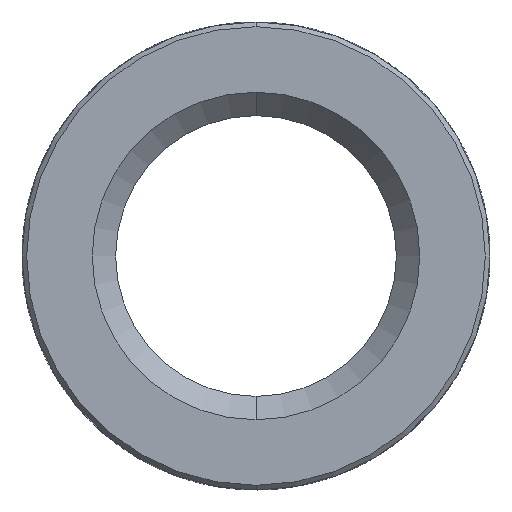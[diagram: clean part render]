
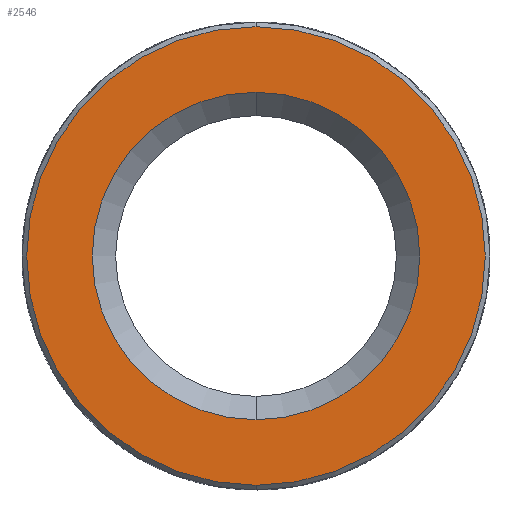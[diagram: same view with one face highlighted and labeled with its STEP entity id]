
A CAD part, front view. The second image highlights one B-rep face of the part: STEP entity #2546.
In plain terms, the highlighted planar face has unit normal (0, -1, 0).
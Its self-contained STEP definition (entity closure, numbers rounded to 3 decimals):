
#9 = CARTESIAN_POINT ( 'NONE',  ( 0., -7.6, -3.5 ) ) ;
#30 = DIRECTION ( 'NONE',  ( 0., -1., 0. ) ) ;
#61 = DIRECTION ( 'NONE',  ( 0., -1., 0. ) ) ;
#220 = FACE_OUTER_BOUND ( 'NONE', #3449, .T. ) ;
#271 = CARTESIAN_POINT ( 'NONE',  ( 0., -7.6, 4.9 ) ) ;
#312 = CIRCLE ( 'NONE', #1649, 3.5 ) ;
#318 = FACE_BOUND ( 'NONE', #1198, .T. ) ;
#329 = DIRECTION ( 'NONE',  ( 0., 0., -1. ) ) ;
#400 = CARTESIAN_POINT ( 'NONE',  ( 0., -7.6, 5. ) ) ;
#530 = VERTEX_POINT ( 'NONE', #271 ) ;
#612 = DIRECTION ( 'NONE',  ( 0., 1., 0. ) ) ;
#714 = CARTESIAN_POINT ( 'NONE',  ( 0., -7.6, 0. ) ) ;
#743 = AXIS2_PLACEMENT_3D ( 'NONE', #3538, #61, #1514 ) ;
#779 = CIRCLE ( 'NONE', #743, 4.9 ) ;
#811 = ORIENTED_EDGE ( 'NONE', *, *, #2907, .T. ) ;
#865 = AXIS2_PLACEMENT_3D ( 'NONE', #714, #1305, #1000 ) ;
#892 = VERTEX_POINT ( 'NONE', #2465 ) ;
#1000 = DIRECTION ( 'NONE',  ( 0., 0., -1. ) ) ;
#1001 = CIRCLE ( 'NONE', #3694, 4.9 ) ;
#1005 = AXIS2_PLACEMENT_3D ( 'NONE', #400, #3268, #1555 ) ;
#1198 = EDGE_LOOP ( 'NONE', ( #811, #1727 ) ) ;
#1229 = DIRECTION ( 'NONE',  ( 0., 0., -1. ) ) ;
#1305 = DIRECTION ( 'NONE',  ( 0., 1., 0. ) ) ;
#1326 = VERTEX_POINT ( 'NONE', #9 ) ;
#1352 = VERTEX_POINT ( 'NONE', #1491 ) ;
#1491 = CARTESIAN_POINT ( 'NONE',  ( 0., -7.6, -4.9 ) ) ;
#1514 = DIRECTION ( 'NONE',  ( 0., 0., -1. ) ) ;
#1555 = DIRECTION ( 'NONE',  ( 0., 0., -1. ) ) ;
#1649 = AXIS2_PLACEMENT_3D ( 'NONE', #2328, #612, #329 ) ;
#1708 = CIRCLE ( 'NONE', #865, 3.5 ) ;
#1727 = ORIENTED_EDGE ( 'NONE', *, *, #2809, .T. ) ;
#2201 = ORIENTED_EDGE ( 'NONE', *, *, #2353, .T. ) ;
#2328 = CARTESIAN_POINT ( 'NONE',  ( 0., -7.6, 0. ) ) ;
#2353 = EDGE_CURVE ( 'NONE', #530, #1352, #1001, .T. ) ;
#2465 = CARTESIAN_POINT ( 'NONE',  ( 0., -7.6, 3.5 ) ) ;
#2546 = ADVANCED_FACE ( 'NONE', ( #220, #318 ), #2965, .T. ) ;
#2683 = ORIENTED_EDGE ( 'NONE', *, *, #2834, .T. ) ;
#2809 = EDGE_CURVE ( 'NONE', #892, #1326, #312, .T. ) ;
#2834 = EDGE_CURVE ( 'NONE', #1352, #530, #779, .T. ) ;
#2907 = EDGE_CURVE ( 'NONE', #1326, #892, #1708, .T. ) ;
#2965 = PLANE ( 'NONE',  #1005 ) ;
#3252 = CARTESIAN_POINT ( 'NONE',  ( 0., -7.6, 0. ) ) ;
#3268 = DIRECTION ( 'NONE',  ( 0., -1., 0. ) ) ;
#3449 = EDGE_LOOP ( 'NONE', ( #2201, #2683 ) ) ;
#3538 = CARTESIAN_POINT ( 'NONE',  ( 0., -7.6, 0. ) ) ;
#3694 = AXIS2_PLACEMENT_3D ( 'NONE', #3252, #30, #1229 ) ;
